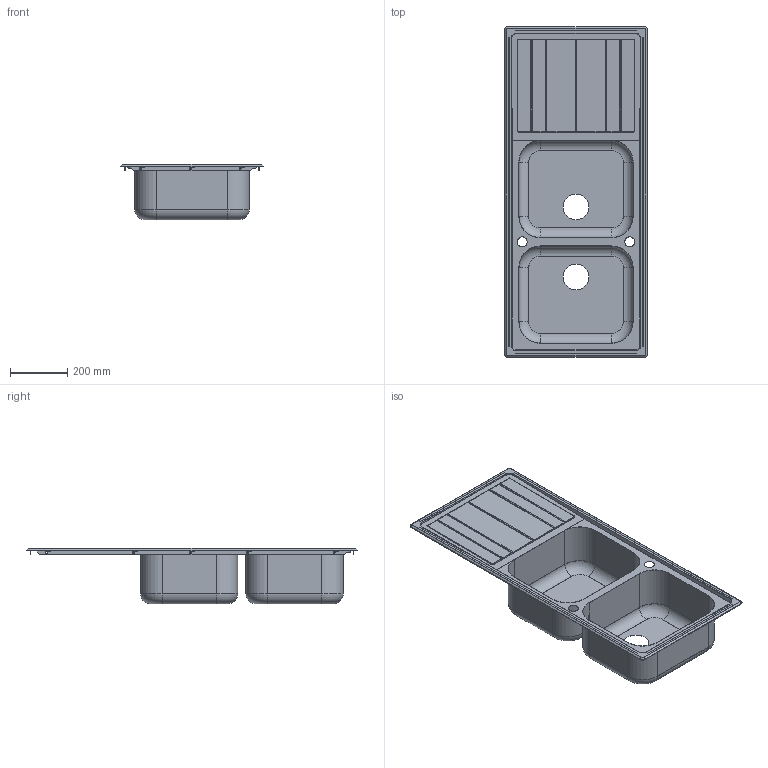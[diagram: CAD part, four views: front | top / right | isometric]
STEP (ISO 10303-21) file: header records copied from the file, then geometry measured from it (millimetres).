
FILE_DESCRIPTION(('CATIA V5 STEP Exchange'),'2;1');
FILE_NAME('C:\Users\linop\Desktop\LPR116.stp','2020-11-11T08:24:13+00:00',('none'),('none'),'CATIA Version 5-6 Release 2014','CATIA V5 STEP AP203','none');
FILE_SCHEMA(('CONFIG_CONTROL_DESIGN'));
Length unit declared in the file: millimetre
Products named in the file (1): LPR116
Bounding box: 500 x 1160 x 194 mm (x, y, z)
Volume: 667292.1 mm3; surface area: 2235147.4 mm2
Topology: 7 solids, 7 shells, 327 faces, 876 edges, 570 vertices
Faces by surface type: plane 161, cylinder 134, cone 16, torus 16
Entity records: 9733 total; most frequent: CARTESIAN_POINT 1918, ORIENTED_EDGE 1752, DIRECTION 1257, EDGE_CURVE 876, VERTEX_POINT 570, VECTOR 523, LINE 523, AXIS2_PLACEMENT_3D 511
